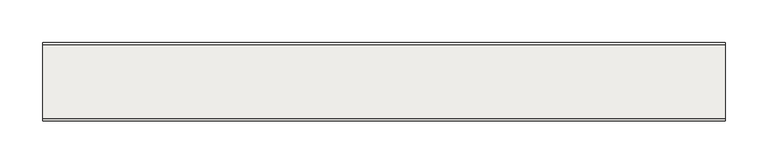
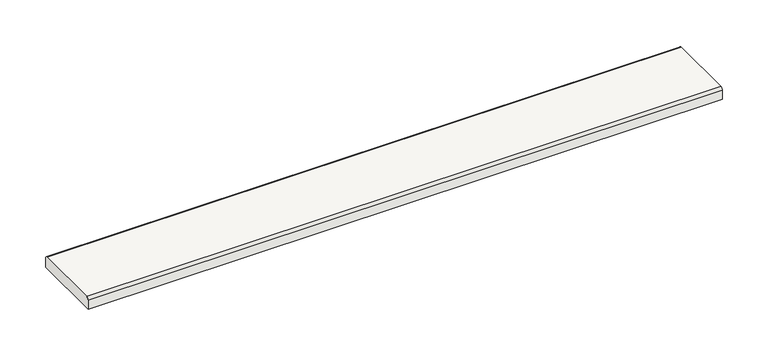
"""IFC4 building model written with IfcOpenShell, lengths in millimetres: covering geometry, Z_DO_NOT_USE_NLRS_PF_52_UN_Multi Grate_Easydrain : 1 - Fixt."""

from ifc_helpers import new_model, si_unit, point, frame, frame_2d, origin, place, context, project, spatial, polyline, circle_curve, trimmed, segment, composite_curve, outline, extrude, source, transform, mapped, element, save


def covering_b1c8ad42(model_context):
    return source(origin(), model_context, "Body", "SweptSolid", [
        extrude(outline(composite_curve([segment(polyline([(-43.0, 0.0), (43.0, 0.0)]), True, "CONTINUOUS"), segment(trimmed(circle_curve(frame_2d((43.0, -3.0)), 3.0), [point((43.0, 0.0))], [point((46.0, -3.0))], False, "CARTESIAN"), True, "CONTINUOUS"), segment(polyline([(46.0, -3.0), (46.0, -15.0), (-46.0, -15.0), (-46.0, -3.0)]), True, "CONTINUOUS"), segment(trimmed(circle_curve(frame_2d((-43.0, -3.0)), 3.0), [point((-46.0, -3.0))], [point((-43.0, 0.0))], False, "CARTESIAN"), True, "CONTINUOUS")], self_intersect=False)), frame((-399.0, 0.0, 0.0), z_axis=(1.0, 0.0, 0.0), x_axis=(0.0, 1.0, 0.0)), (0.0, 0.0, 1.0), 798.0),
    ])


if __name__ == "__main__":
    model = new_model("IFC4")
    model_context = context("Model", 3, world=origin())
    ifc_project = project(units=[si_unit("LENGTHUNIT", "METRE", prefix="MILLI")], contexts=[model_context])
    site = spatial("IfcSite", under=ifc_project)
    building = spatial("IfcBuilding", under=site)
    placement = place(None, origin())
    covering_shape = covering_b1c8ad42(model_context)
    element("IfcCovering", 1, ObjectType="Z_DO_NOT_USE_NLRS_PF_52_UN_Multi Grate_Easydrain : 1 - Fixt", at=placement, inside=building, context=model_context, shape_type="MappedRepresentation", body=[
        mapped(covering_shape, transform((0.0, 0.0, 0.0), x_axis=(1.0, 0.0, 0.0), y_axis=(0.0, 1.0, 0.0), z_axis=(0.0, 0.0, 1.0))),
    ])
    save(model, "model.ifc")
